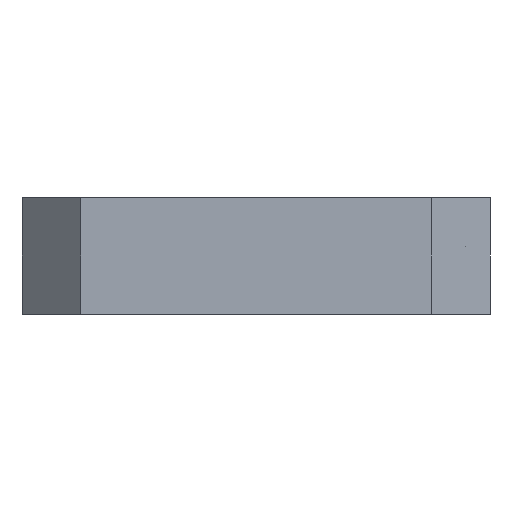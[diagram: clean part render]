
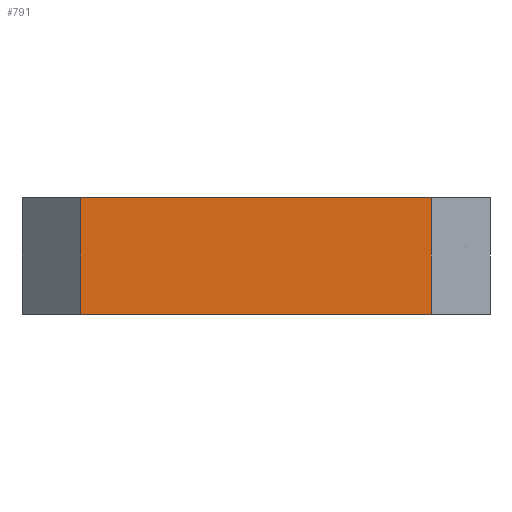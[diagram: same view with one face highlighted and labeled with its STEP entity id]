
A CAD part, front view. The second image highlights one B-rep face of the part: STEP entity #791.
In plain terms, the highlighted planar face has unit normal (0, -1, 0).
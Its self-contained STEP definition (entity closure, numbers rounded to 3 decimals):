
#73=CARTESIAN_POINT('',(15.,-140.,-10.0));
#74=VERTEX_POINT('',#73);
#91=CARTESIAN_POINT('',(15.,-140.,0.0));
#92=VERTEX_POINT('',#91);
#99=CARTESIAN_POINT('',(15.,-140.,0.0));
#100=DIRECTION('',(0.0,0.0,-1.0));
#101=VECTOR('',#100,10.0);
#102=LINE('',#99,#101);
#103=EDGE_CURVE('',#92,#74,#102,.T.);
#145=CARTESIAN_POINT('',(-15.,-140.,-10.0));
#146=VERTEX_POINT('',#145);
#147=CARTESIAN_POINT('',(15.,-140.,-10.0));
#148=DIRECTION('',(-1.0,0.0,0.0));
#149=VECTOR('',#148,30.);
#150=LINE('',#147,#149);
#151=EDGE_CURVE('',#74,#146,#150,.T.);
#267=CARTESIAN_POINT('',(-15.,-140.,0.0));
#268=VERTEX_POINT('',#267);
#269=CARTESIAN_POINT('',(-15.,-140.,-10.0));
#270=DIRECTION('',(0.0,0.0,1.0));
#271=VECTOR('',#270,10.0);
#272=LINE('',#269,#271);
#273=EDGE_CURVE('',#146,#268,#272,.T.);
#347=CARTESIAN_POINT('',(-15.,-140.,0.0));
#348=DIRECTION('',(1.0,0.0,0.0));
#349=VECTOR('',#348,30.);
#350=LINE('',#347,#349);
#351=EDGE_CURVE('',#268,#92,#350,.T.);
#780=CARTESIAN_POINT('',(20.,-140.,0.0));
#781=DIRECTION('',(0.0,-1.0,0.0));
#782=DIRECTION('',(-1.0,0.0,0.0));
#783=AXIS2_PLACEMENT_3D('',#780,#781,#782);
#784=PLANE('',#783);
#785=ORIENTED_EDGE('',*,*,#103,.F.);
#786=ORIENTED_EDGE('',*,*,#351,.F.);
#787=ORIENTED_EDGE('',*,*,#273,.F.);
#788=ORIENTED_EDGE('',*,*,#151,.F.);
#789=EDGE_LOOP('',(#785,#786,#787,#788));
#790=FACE_OUTER_BOUND('',#789,.T.);
#791=ADVANCED_FACE('',(#790),#784,.T.);
